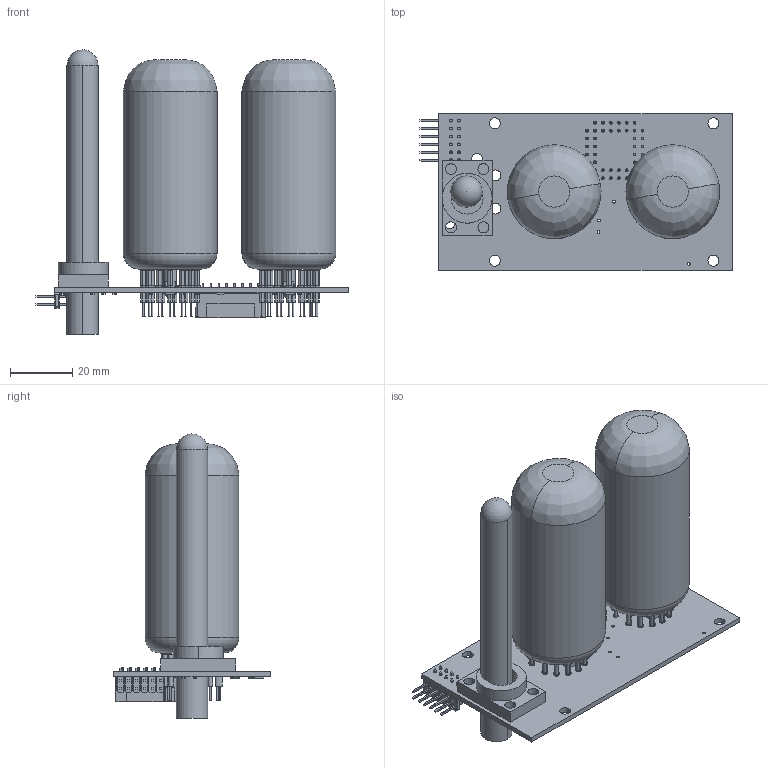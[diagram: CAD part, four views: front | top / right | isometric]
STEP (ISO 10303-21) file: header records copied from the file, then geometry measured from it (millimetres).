
FILE_DESCRIPTION(('Open CASCADE Model'),'2;1');
FILE_NAME('Open CASCADE Shape Model','2018-01-29T17:32:59',('Author'),( 'Open CASCADE'),'Open CASCADE STEP processor 6.8','Open CASCADE 6.8' ,'Unknown');
FILE_SCHEMA(('AUTOMOTIVE_DESIGN { 1 0 10303 214 1 1 1 1 }'));
Length unit declared in the file: millimetre
Products named in the file (1): PCB
Bounding box: 100.02 x 50 x 91 mm (x, y, z)
Volume: 13972.7 mm3; surface area: 37760.6 mm2
Topology: 29 solids, 784 shells, 2734 faces, 8605 edges, 6727 vertices
Faces by surface type: plane 1453, cylinder 1129, sphere 90, bspline 50, cone 4, torus 4, revolution 4
Full cylindrical faces by diameter (mm): 0.9 x67, 1.6 x28, 3.5 x8, 5.1 x2
Entity records: 105109 total; most frequent: CARTESIAN_POINT 22031, DIRECTION 16285, ORIENTED_EDGE 13220, EDGE_CURVE 8507, VERTEX_POINT 6727, LINE 5755, VECTOR 5755, AXIS2_PLACEMENT_3D 5263
